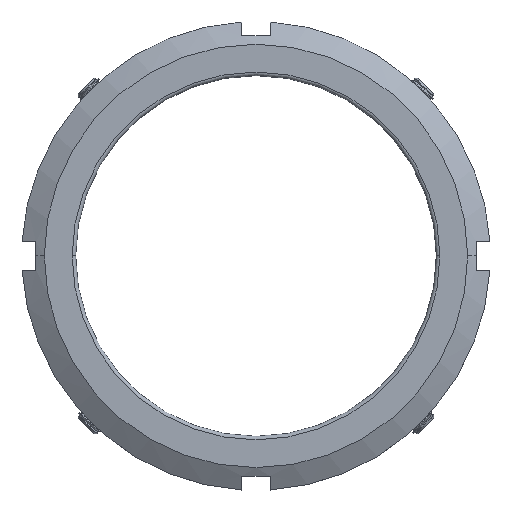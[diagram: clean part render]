
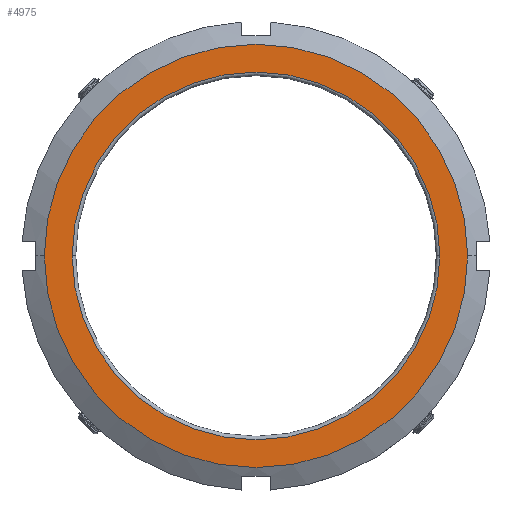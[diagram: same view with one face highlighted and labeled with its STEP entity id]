
A CAD part, top view. The second image highlights one B-rep face of the part: STEP entity #4975.
In plain terms, the highlighted planar face has unit normal (0, 0, 1).
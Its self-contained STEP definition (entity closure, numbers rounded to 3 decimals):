
#88 = CIRCLE ( 'NONE', #4665, 64.725 ) ;
#90 = CIRCLE ( 'NONE', #4666, 74.498 ) ;
#131 = CIRCLE ( 'NONE', #3931, 64.725 ) ;
#300 = FACE_BOUND ( 'NONE', #876, .T. ) ;
#305 = FACE_OUTER_BOUND ( 'NONE', #873, .T. ) ;
#707 = CARTESIAN_POINT ( 'NONE',  ( 417.451, 0.63, 22. ) ) ;
#708 = PLANE ( 'NONE',  #4013 ) ;
#709 = DIRECTION ( 'NONE',  ( 0., 0., 1. ) ) ;
#710 = DIRECTION ( 'NONE',  ( 1., 0., 0. ) ) ;
#873 = EDGE_LOOP ( 'NONE', ( #2007, #2005 ) ) ;
#876 = EDGE_LOOP ( 'NONE', ( #2075, #2020 ) ) ;
#1948 = CARTESIAN_POINT ( 'NONE',  ( 417.451, 0.63, 22. ) ) ;
#1949 = DIRECTION ( 'NONE',  ( 0., 0., -1. ) ) ;
#1950 = DIRECTION ( 'NONE',  ( 1., 0., 0. ) ) ;
#1951 = CARTESIAN_POINT ( 'NONE',  ( 417.451, 0.63, 22. ) ) ;
#1953 = DIRECTION ( 'NONE',  ( 0., 0., 1. ) ) ;
#1954 = DIRECTION ( 'NONE',  ( 1., 0., 0. ) ) ;
#2005 = ORIENTED_EDGE ( 'NONE', *, *, #4261, .T. ) ;
#2007 = ORIENTED_EDGE ( 'NONE', *, *, #4364, .T. ) ;
#2020 = ORIENTED_EDGE ( 'NONE', *, *, #4565, .T. ) ;
#2075 = ORIENTED_EDGE ( 'NONE', *, *, #4363, .T. ) ;
#2755 = CARTESIAN_POINT ( 'NONE',  ( 342.953, 0.63, 22. ) ) ;
#2757 = CARTESIAN_POINT ( 'NONE',  ( 491.95, 0.63, 22. ) ) ;
#2760 = CARTESIAN_POINT ( 'NONE',  ( 482.176, 0.63, 22. ) ) ;
#2761 = CARTESIAN_POINT ( 'NONE',  ( 352.727, 0.63, 22. ) ) ;
#3931 = AXIS2_PLACEMENT_3D ( 'NONE', #4450, #4452, #4453 ) ;
#4013 = AXIS2_PLACEMENT_3D ( 'NONE', #707, #709, #710 ) ;
#4261 = EDGE_CURVE ( 'NONE', #4858, #4856, #6532, .T. ) ;
#4363 = EDGE_CURVE ( 'NONE', #4861, #4862, #88, .T. ) ;
#4364 = EDGE_CURVE ( 'NONE', #4856, #4858, #90, .T. ) ;
#4450 = CARTESIAN_POINT ( 'NONE',  ( 417.451, 0.63, 22. ) ) ;
#4452 = DIRECTION ( 'NONE',  ( 0., 0., -1. ) ) ;
#4453 = DIRECTION ( 'NONE',  ( 1., 0., 0. ) ) ;
#4565 = EDGE_CURVE ( 'NONE', #4862, #4861, #131, .T. ) ;
#4612 = AXIS2_PLACEMENT_3D ( 'NONE', #6342, #6344, #6301 ) ;
#4665 = AXIS2_PLACEMENT_3D ( 'NONE', #1948, #1949, #1950 ) ;
#4666 = AXIS2_PLACEMENT_3D ( 'NONE', #1951, #1953, #1954 ) ;
#4856 = VERTEX_POINT ( 'NONE', #2755 ) ;
#4858 = VERTEX_POINT ( 'NONE', #2757 ) ;
#4861 = VERTEX_POINT ( 'NONE', #2760 ) ;
#4862 = VERTEX_POINT ( 'NONE', #2761 ) ;
#4975 = ADVANCED_FACE ( 'NONE', ( #300, #305 ), #708, .T. ) ;
#6301 = DIRECTION ( 'NONE',  ( 1., 0., 0. ) ) ;
#6342 = CARTESIAN_POINT ( 'NONE',  ( 417.451, 0.63, 22. ) ) ;
#6344 = DIRECTION ( 'NONE',  ( 0., 0., 1. ) ) ;
#6532 = CIRCLE ( 'NONE', #4612, 74.498 ) ;
